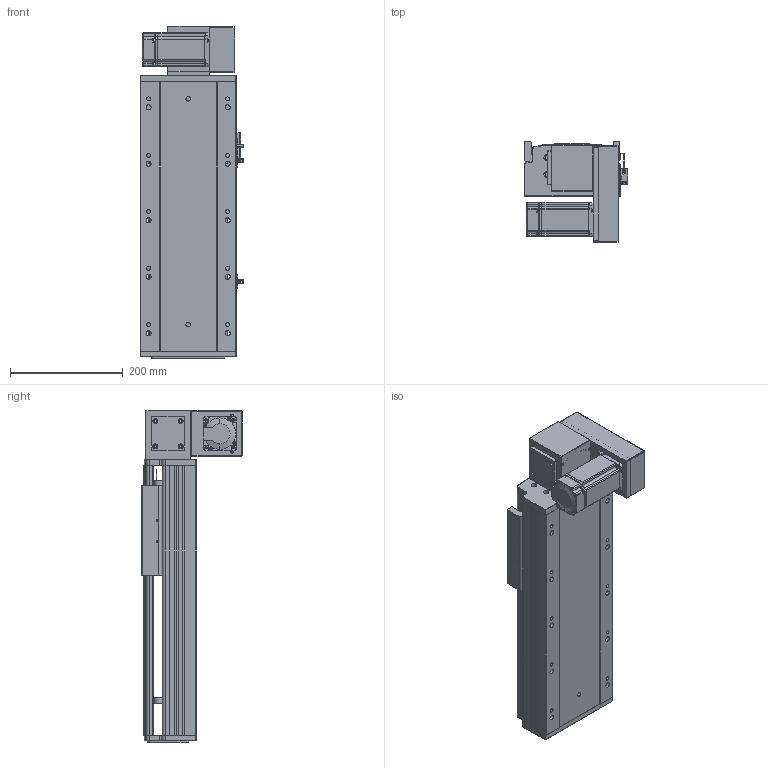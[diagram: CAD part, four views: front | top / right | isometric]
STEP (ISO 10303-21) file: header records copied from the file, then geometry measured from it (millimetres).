
FILE_DESCRIPTION (( 'STEP AP203' ), '1' );
FILE_NAME ('RY170-T-300-DR-P400W.SLDASM_200.step', '2021-03-01T08:22:29', ( '盈信电脑' ), ( '东莞市道滘镇水果街19号' ), 'SwSTEP 2.0', 'SolidWorks 2012', '' );
FILE_SCHEMA (( 'CONFIG_CONTROL_DESIGN' ));
Length unit declared in the file: millimetre
Products named in the file (19): RY170-T-呴雄粣揤踡啣; RY170-T-300-DR-P400W.SLDASM_200; 15; RY170-T蹟翐M4; RY170-T肮祭謫裔啣; RY120-T主同步轮轴承压盖; 滅袉蝶18-10; RY170肮祭謫萇儂欶; RY170-T肮祭湍揤踡輸1; RY170-T肮祭湍揤踡輸2; RY170外置感应片(200共用）; RY170翋肮祭謫釱; RY170同步轮电机安装板(400W); RY170肮祭謫ヶ裔啣; RY170肮祭湍臏賑輸; 覜茼ん672; RY170綴裔啣; RY170-T-300肮祭謫倰第裔啣-DR_200; RY170-T-300肮祭謫倰第菁釱-DR_200
Assembly tree (23 placements, depth 2):
  RY170-T-300-DR-P400W.SLDASM_200
    RY170-T-300肮祭謫倰第菁釱-DR_200
    RY170肮祭湍臏賑輸
    RY170-T-300肮祭謫倰第裔啣-DR_200
    RY170綴裔啣
    覜茼ん672  x3
    RY170外置感应片(200共用）
    RY170肮祭謫ヶ裔啣
    RY170翋肮祭謫釱
    RY170同步轮电机安装板(400W)
    RY170肮祭謫萇儂欶
    RY170-T肮祭湍揤踡輸1  x2
    RY170-T肮祭湍揤踡輸2  x2
    RY120-T主同步轮轴承压盖
    RY170-T肮祭謫裔啣
    RY170-T蹟翐M4
    滅袉蝶18-10  x2
    RY170-T-呴雄粣揤踡啣
    15
Bounding box: 183.7 x 178 x 588 mm (x, y, z)
Volume: 3577183.4 mm3; surface area: 1164626.4 mm2
Topology: 23 solids, 23 shells, 2586 faces, 7122 edges, 4603 vertices
Faces by surface type: plane 1260, cylinder 1112, cone 184, bspline 30
Entity records: 75949 total; most frequent: CARTESIAN_POINT 16323, ORIENTED_EDGE 12056, DIRECTION 11952, EDGE_CURVE 6028, AXIS2_PLACEMENT_3D 4162, VERTEX_POINT 3959, VECTOR 3628, LINE 3628
